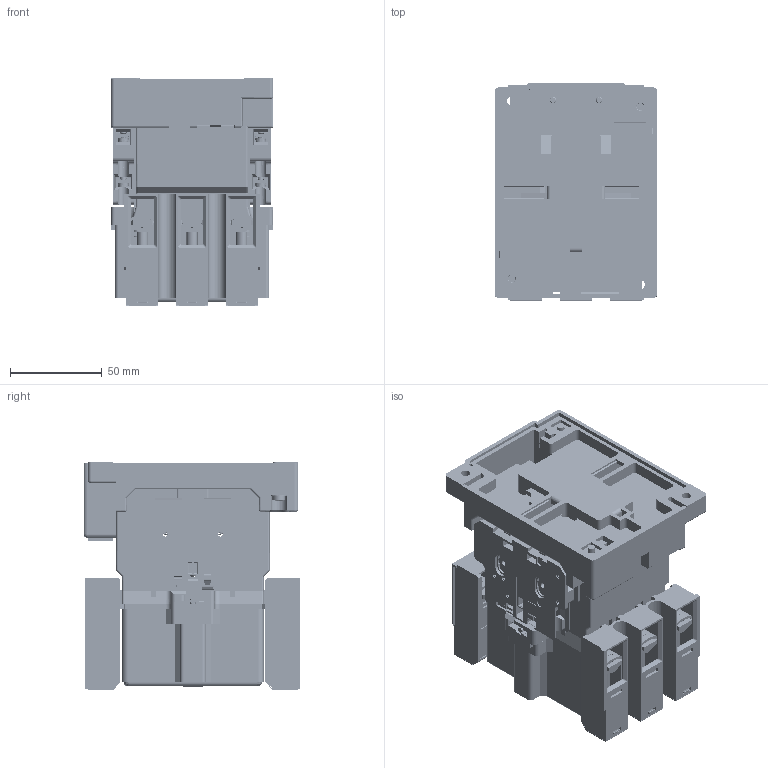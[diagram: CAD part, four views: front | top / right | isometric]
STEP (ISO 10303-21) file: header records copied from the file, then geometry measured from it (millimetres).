
FILE_DESCRIPTION((''),'2;1');
FILE_NAME('24000140P14_ASM','2021-08-03T',('sipei.wu'),(''),'PRO/ENGINEER BY PARAMETRIC TECHNOLOGY CORPORATION, 2015440','PRO/ENGINEER BY PARAMETRIC TECHNOLOGY CORPORATION, 2015440','');
FILE_SCHEMA(('CONFIG_CONTROL_DESIGN'));
Products named in the file (90): 8022012600; 8946006900; 5022012700_ASM; 8157005900; 8600023400; 8548004800; 8600023200; 8969004700_AF0; 8969004700_AF1; 8969004700_AF2; 8969004700_AF3; 5615018200_ASM; 8271010800; 8865035200; 8233023700; 8740000800; 8869004300; 8742063200; 8742063300; 8742063400; 8270016000; 8868000700; 8261003100; 8282037400; 8282037500; GB_T845-ST3_5X14-F-3D; 57400075P02_ASM; 8135018400; 8157005700; 8005015700; 8104016000; 8114013400; 8557028500; 8550043100_AF0; 5550039500_ASM; 8557028400_AF0; 8550043100_AF1; 5550039600_ASM; 8553014400; 8550043000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
Assembly tree (249 placements, depth 4):
  24000140P14_ASM
    5022012700_ASM
      8022012600
      8946006900  x2
    8157005900
    5615018200_ASM
      8600023400  x2
      8548004800  x2
      8600023200  x36
      8969004700_AF0  x3
      8969004700_AF1
      8969004700_AF2
      8969004700_AF3
    8271010800  x4
    8865035200
    57400075P02_ASM
      8233023700  x4
      8740000800
      8869004300
      8742063200  x3
      8742063300  x6
      8742063400  x12
      8270016000  x12
      8868000700  x2
      8261003100
      8282037400
      8282037500  x2
      GB_T845-ST3_5X14-F-3D  x2
    8135018400  x2
    8868000700
    8157005700  x2
    5558017100_ASM  x2
      8005015700
      8104016000
      8114013400
      5550039500_ASM
        8557028500
        8550043100_AF0
      5550039600_ASM
        8557028400_AF0
        8550043100_AF1
      5553016900_ASM
        8553014400
        8550043000  x2
      7900000014_DLX-ZK005_M3_5X11
      8347000100
      8282037000
    5574004400_ASM  x2
      5574004300_ASM
        8954000700
        8906002900
        8145003400
        8110006100
      8300019000
    8024015900
    5104014100_ASM
      8282037800  x2
      8114013700  x3
      8104016100
      8114013600  x3
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Bounding box: 88.5 x 117.95 x 124.5 mm (x, y, z)
Volume: 464695.7 mm3; surface area: 616132.7 mm2
Topology: 281 solids, 333 shells, 20695 faces, 58005 edges, 38017 vertices
Faces by surface type: plane 11285, cylinder 6584, torus 2144, cone 374, bspline 186, sphere 122
Entity records: 253045 total; most frequent: CARTESIAN_POINT 51048, DIRECTION 42577, ORIENTED_EDGE 42058, EDGE_CURVE 21057, VECTOR 14465, LINE 14465, AXIS2_PLACEMENT_3D 14056, VERTEX_POINT 13765
